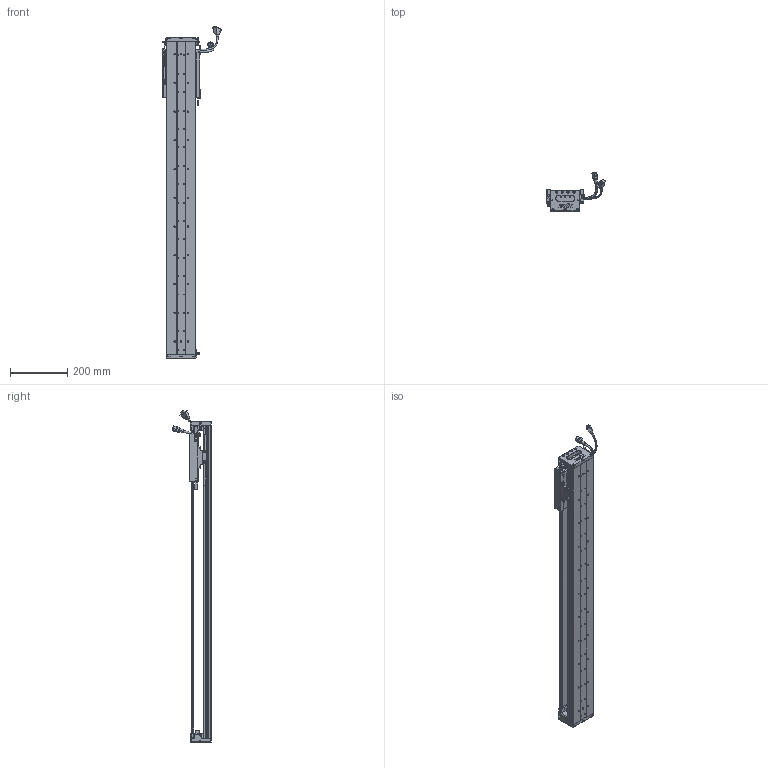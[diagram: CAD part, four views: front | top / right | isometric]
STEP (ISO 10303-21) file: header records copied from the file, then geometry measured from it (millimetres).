
FILE_DESCRIPTION (( 'STEP AP203' ), '1' );
FILE_NAME ('Z2-RY100D-1-L500-B-K.SLDASM_0850.step', '2021-05-17T02:35:39', ( '盈信电脑' ), ( '东莞市道滘镇水果街19号' ), 'SwSTEP 2.0', 'SolidWorks 2016', '' );
FILE_SCHEMA (( 'CONFIG_CONTROL_DESIGN' ));
Length unit declared in the file: millimetre
Products named in the file (36): SCALE; SCREW-M1.6-1; Z-RY100D詩湍奻揤裔; COVER; Z2-RY100铝滑块（21款）; SCREW-M1.7-1; HARNESS-Part-1; LABEL; PSLH080_PSLF2; Z2-RY100D-500-倰第菁釱_0850; 140蚥薯蝶輸; Z-RY100D詩湍狟揤裔; SCALE-Part-1; SCREW-M1.6; SCREW-M1.6-2; 100-Z-臏賑輸盄裔(21遴); 覜茼ん672; SCREW-M1.7; SCALE-Part-2; SEAL; Z2-RY100-L500詩湍90mm遵_0850; 榋妏寠巭燃_暯_M2_2; LABEL-Part-1; 140雄赽晤鎢ん堤盄; PBU_SHEET; HOLDER0; SCREW-M1.6-3; HARNESS-Part-2; Z2-RY100D-1-L500-B-K.SLDASM_0850; COVER-Part-1; Z-RY100D覜茼んえ; Z-100詩湍傷裔啣; 080黍杅芛假蚾釱21遴; SHIELDPLATE; SEAL-Part-1; HARNESS
Assembly tree (43 placements, depth 4):
  Z2-RY100D-1-L500-B-K.SLDASM_0850
    Z2-RY100D-500-倰第菁釱_0850
    Z2-RY100铝滑块（21款）
    PSLH080_PSLF2
      SCALE
        SCALE-Part-1
        SCALE-Part-2
      HARNESS
        HARNESS-Part-1
        HARNESS-Part-2
      LABEL
        LABEL-Part-1
      COVER
        COVER-Part-1
      SEAL
        SEAL-Part-1
      榋妏寠巭燃_暯_M2_2
      SHIELDPLATE
      SCREW-M1.7
      SCREW-M1.7-1
      PBU_SHEET
      SCREW-M1.6
      SCREW-M1.6-1
      SCREW-M1.6-2
      SCREW-M1.6-3
      HOLDER0
    080黍杅芛假蚾釱21遴
    Z-100詩湍傷裔啣  x2
    140蚥薯蝶輸  x2
    覜茼ん672  x3
    Z-RY100D覜茼んえ  x3
    100-Z-臏賑輸盄裔(21遴)
    140雄赽晤鎢ん堤盄
    Z2-RY100-L500詩湍90mm遵_0850
    Z-RY100D詩湍狟揤裔  x2
    Z-RY100D詩湍奻揤裔  x2
Bounding box: 205.84 x 136.11 x 1155.43 mm (x, y, z)
Volume: 2368858 mm3; surface area: 918509 mm2
Topology: 38 solids, 38 shells, 2580 faces, 6789 edges, 4300 vertices
Faces by surface type: plane 1122, cylinder 1118, cone 218, torus 69, bspline 53
Entity records: 70305 total; most frequent: CARTESIAN_POINT 14848, DIRECTION 11117, ORIENTED_EDGE 10474, EDGE_CURVE 5237, AXIS2_PLACEMENT_3D 4085, VERTEX_POINT 3368, LINE 2947, VECTOR 2947
